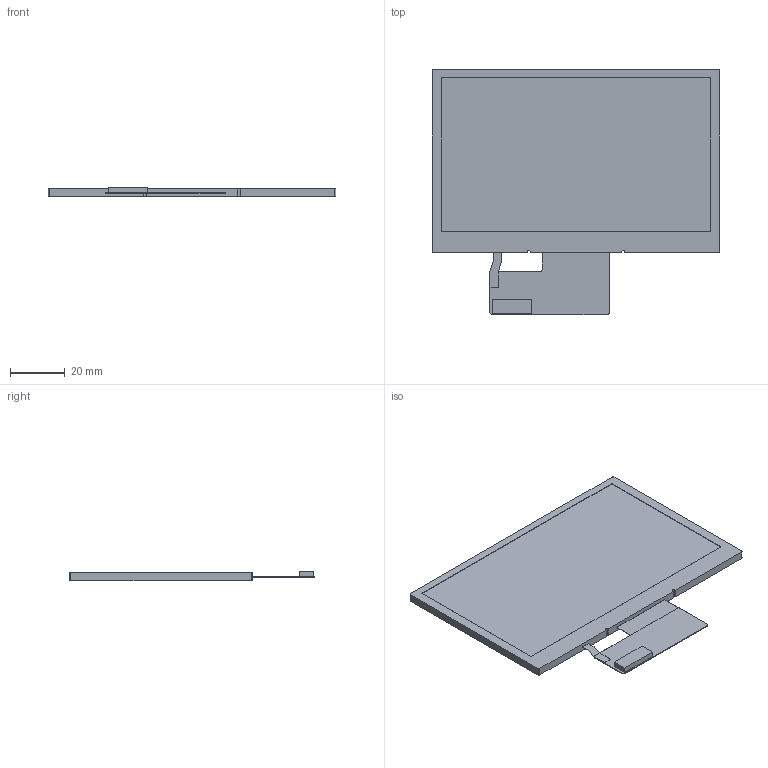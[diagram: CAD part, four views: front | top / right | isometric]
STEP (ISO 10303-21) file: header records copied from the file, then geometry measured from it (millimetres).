
FILE_DESCRIPTION((''),'2;1');
FILE_NAME('DM48270F043-05WN-250521','2009-01-01T',('Administrator'),(''),'PRO/ENGINEER BY PARAMETRIC TECHNOLOGY CORPORATION, 2008380','PRO/ENGINEER BY PARAMETRIC TECHNOLOGY CORPORATION, 2008380','');
FILE_SCHEMA(('CONFIG_CONTROL_DESIGN'));
Length unit declared in the file: millimetre
Products named in the file (1): DM48270F043-05WN-250521
Bounding box: 105.42 x 89.72 x 3.45 mm (x, y, z)
Volume: 20119.7 mm3; surface area: 17101.5 mm2
Topology: 1 solids, 1 shells, 53 faces, 4345 edges, 7308 vertices
Faces by surface type: plane 39, cylinder 14
Entity records: 36638 total; most frequent: DIRECTION 5674, CARTESIAN_POINT 4494, PRESENTATION_STYLE_ASSIGNMENT 4213, STYLED_ITEM 4213, CURVE_STYLE 4205, TRIMMED_CURVE 4201, VECTOR 3124, LINE 3124
